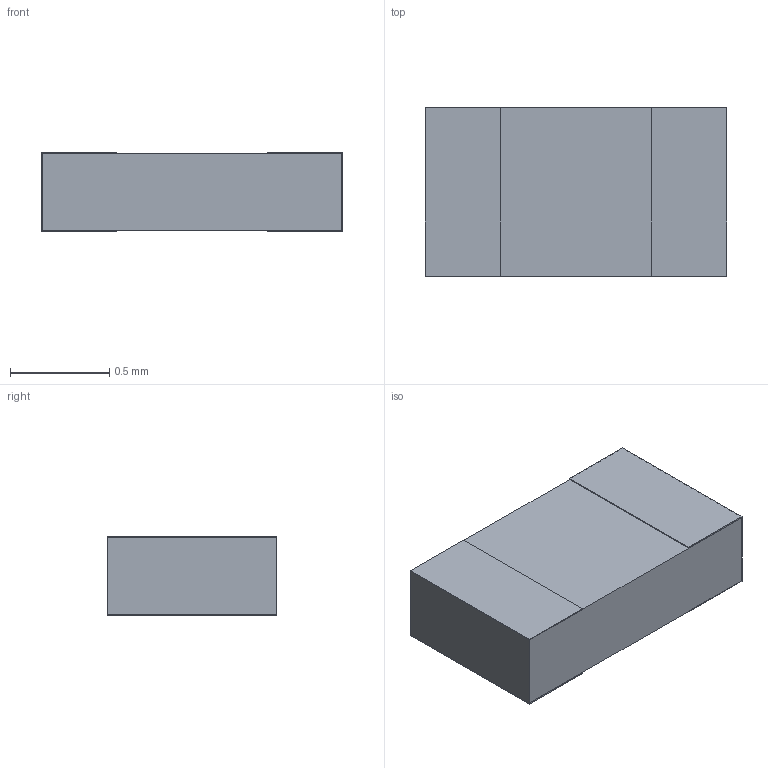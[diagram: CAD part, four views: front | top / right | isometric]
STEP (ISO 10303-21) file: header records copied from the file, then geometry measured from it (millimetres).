
FILE_DESCRIPTION(/* description */ (''),/* implementation_level */ '2;1');
FILE_NAME(/* name */ 'S:\DOCUMENT\AUTOCAD\3D_Modèles\10_3D-pour-VISHAY-COM\P\PVHT0603_G.stp',/* time_stamp */ '2018-01-31T10:15:11+01:00',/* author */ ('dparmentier'),/* organization */ ('unknown'),/* preprocessor_version */ 'ST-DEVELOPER v17',/* originating_system */ 'Autodesk Inventor 2018',/* authorisation */ '');
FILE_SCHEMA (('AUTOMOTIVE_DESIGN { 1 0 10303 214 3 1 1 }'));
Length unit declared in the file: millimetre
Products named in the file (1): PVHT0603_G
Bounding box: 1.52 x 0.85 x 0.4 mm (x, y, z)
Volume: 0.5 mm3; surface area: 8.4 mm2
Topology: 3 solids, 3 shells, 26 faces, 60 edges, 40 vertices
Faces by surface type: plane 26
Entity records: 775 total; most frequent: CARTESIAN_POINT 127, ORIENTED_EDGE 120, DIRECTION 114, LINE 60, VECTOR 60, EDGE_CURVE 60, VERTEX_POINT 40, AXIS2_PLACEMENT_3D 27
